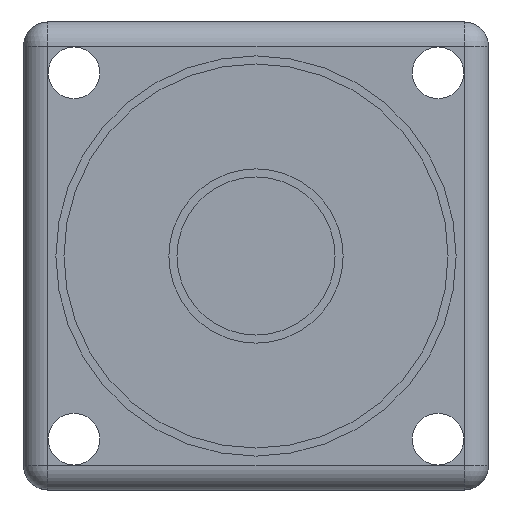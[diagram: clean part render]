
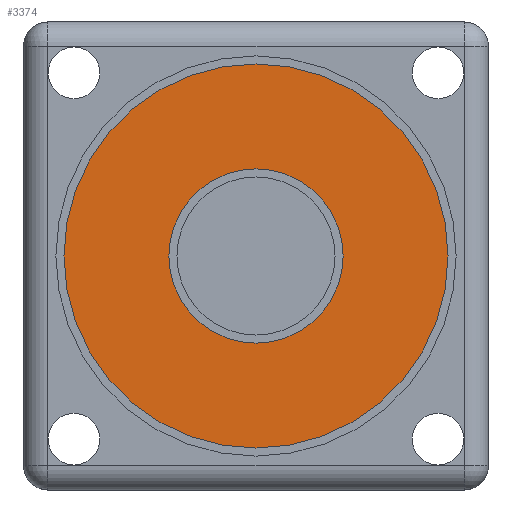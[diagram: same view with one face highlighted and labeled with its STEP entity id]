
A CAD part, front view. The second image highlights one B-rep face of the part: STEP entity #3374.
In plain terms, the highlighted planar face has unit normal (0, -1, 0).
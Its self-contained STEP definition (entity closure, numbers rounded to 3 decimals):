
#3331=CARTESIAN_POINT('',(5.4,-22.5,14.5));
#3332=VERTEX_POINT('',#3331);
#3333=CARTESIAN_POINT('',(0.,-22.5,14.5));
#3334=DIRECTION('',(0.0,1.0,0.0));
#3335=DIRECTION('',(-1.0,0.0,0.0));
#3336=AXIS2_PLACEMENT_3D('',#3333,#3334,#3335);
#3337=CIRCLE('',#3336,5.4);
#3338=EDGE_CURVE('',#3332,#3332,#3337,.T.);
#3355=CARTESIAN_POINT('',(0.0,-22.5,0.0));
#3356=DIRECTION('',(0.0,-1.0,0.0));
#3357=DIRECTION('',(0.0,0.0,-1.0));
#3358=AXIS2_PLACEMENT_3D('',#3355,#3356,#3357);
#3359=PLANE('',#3358);
#3360=CARTESIAN_POINT('',(11.9,-22.5,14.5));
#3361=VERTEX_POINT('',#3360);
#3362=CARTESIAN_POINT('',(0.,-22.5,14.5));
#3363=DIRECTION('',(0.0,-1.0,0.0));
#3364=DIRECTION('',(-1.0,0.0,0.0));
#3365=AXIS2_PLACEMENT_3D('',#3362,#3363,#3364);
#3366=CIRCLE('',#3365,11.9);
#3367=EDGE_CURVE('',#3361,#3361,#3366,.T.);
#3368=ORIENTED_EDGE('',*,*,#3367,.T.);
#3369=EDGE_LOOP('',(#3368));
#3370=FACE_OUTER_BOUND('',#3369,.T.);
#3371=ORIENTED_EDGE('',*,*,#3338,.T.);
#3372=EDGE_LOOP('',(#3371));
#3373=FACE_BOUND('',#3372,.T.);
#3374=ADVANCED_FACE('',(#3370,#3373),#3359,.T.);
